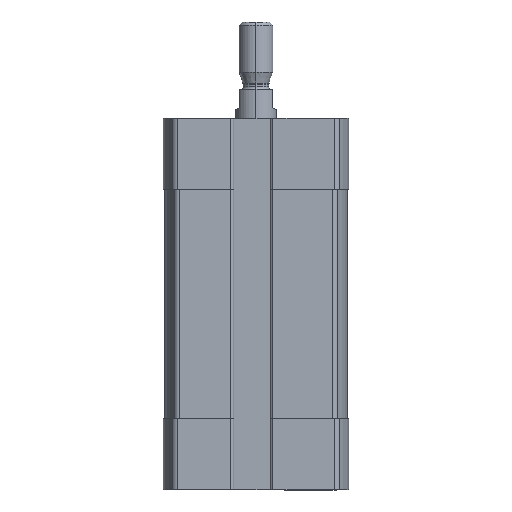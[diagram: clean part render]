
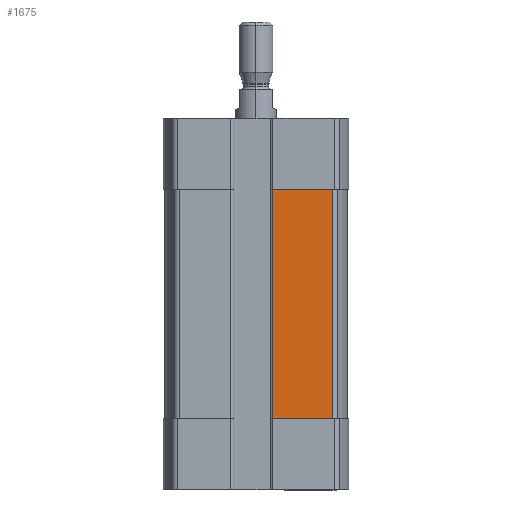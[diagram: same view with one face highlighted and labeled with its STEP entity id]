
A CAD part, left-side view. The second image highlights one B-rep face of the part: STEP entity #1675.
In plain terms, the highlighted planar face has unit normal (-1, 0, 0).
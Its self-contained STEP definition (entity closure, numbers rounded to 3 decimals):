
#136 = CARTESIAN_POINT ( 'NONE',  ( -13.5, -2.5, -10.5 ) ) ;
#224 = LINE ( 'NONE', #9954, #9777 ) ;
#1293 = LINE ( 'NONE', #9900, #5843 ) ;
#1675 = ADVANCED_FACE ( 'NONE', ( #3089 ), #7967, .T. ) ;
#1755 = DIRECTION ( 'NONE',  ( 0., 0., 1. ) ) ;
#2335 = DIRECTION ( 'NONE',  ( 0., 1., 0. ) ) ;
#2740 = EDGE_CURVE ( 'NONE', #2964, #5325, #224, .T. ) ;
#2964 = VERTEX_POINT ( 'NONE', #10396 ) ;
#2977 = EDGE_LOOP ( 'NONE', ( #9644, #5555, #10107, #7835 ) ) ;
#3089 = FACE_OUTER_BOUND ( 'NONE', #2977, .T. ) ;
#3291 = VERTEX_POINT ( 'NONE', #136 ) ;
#3967 = LINE ( 'NONE', #5034, #7928 ) ;
#4314 = DIRECTION ( 'NONE',  ( 0., 0., -1. ) ) ;
#5034 = CARTESIAN_POINT ( 'NONE',  ( -13.5, 0., -10.5 ) ) ;
#5325 = VERTEX_POINT ( 'NONE', #11328 ) ;
#5385 = EDGE_CURVE ( 'NONE', #3291, #2964, #10293, .T. ) ;
#5523 = VECTOR ( 'NONE', #4314, 1000. ) ;
#5555 = ORIENTED_EDGE ( 'NONE', *, *, #8222, .T. ) ;
#5560 = VERTEX_POINT ( 'NONE', #7141 ) ;
#5843 = VECTOR ( 'NONE', #6320, 1000. ) ;
#6320 = DIRECTION ( 'NONE',  ( 0., 0., 1. ) ) ;
#7011 = CARTESIAN_POINT ( 'NONE',  ( -13.5, -2.5, -44.5 ) ) ;
#7141 = CARTESIAN_POINT ( 'NONE',  ( -13.5, -11.329, -10.5 ) ) ;
#7835 = ORIENTED_EDGE ( 'NONE', *, *, #5385, .T. ) ;
#7926 = CARTESIAN_POINT ( 'NONE',  ( -13.5, -2.5, -44.5 ) ) ;
#7928 = VECTOR ( 'NONE', #2335, 1000. ) ;
#7967 = PLANE ( 'NONE',  #10774 ) ;
#8023 = DIRECTION ( 'NONE',  ( 0., -1., 0. ) ) ;
#8043 = DIRECTION ( 'NONE',  ( -1., 0., 0. ) ) ;
#8222 = EDGE_CURVE ( 'NONE', #5325, #5560, #1293, .T. ) ;
#9165 = EDGE_CURVE ( 'NONE', #5560, #3291, #3967, .T. ) ;
#9644 = ORIENTED_EDGE ( 'NONE', *, *, #2740, .T. ) ;
#9777 = VECTOR ( 'NONE', #8023, 1000. ) ;
#9900 = CARTESIAN_POINT ( 'NONE',  ( -13.5, -11.329, -44.5 ) ) ;
#9954 = CARTESIAN_POINT ( 'NONE',  ( -13.5, -2.5, -44.5 ) ) ;
#10107 = ORIENTED_EDGE ( 'NONE', *, *, #9165, .T. ) ;
#10293 = LINE ( 'NONE', #7011, #5523 ) ;
#10396 = CARTESIAN_POINT ( 'NONE',  ( -13.5, -2.5, -44.5 ) ) ;
#10774 = AXIS2_PLACEMENT_3D ( 'NONE', #7926, #8043, #1755 ) ;
#11328 = CARTESIAN_POINT ( 'NONE',  ( -13.5, -11.329, -44.5 ) ) ;
